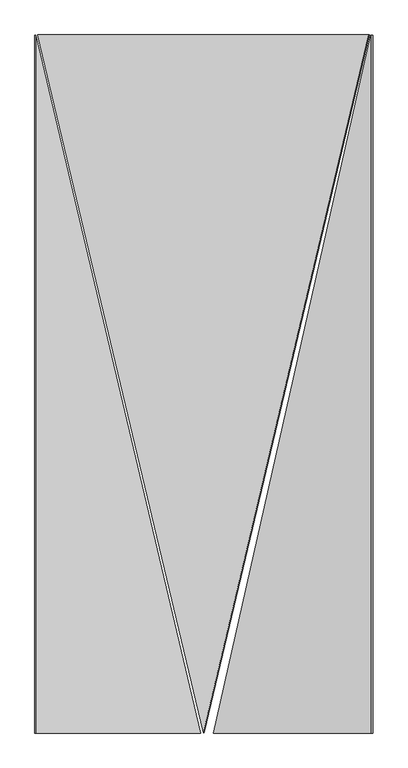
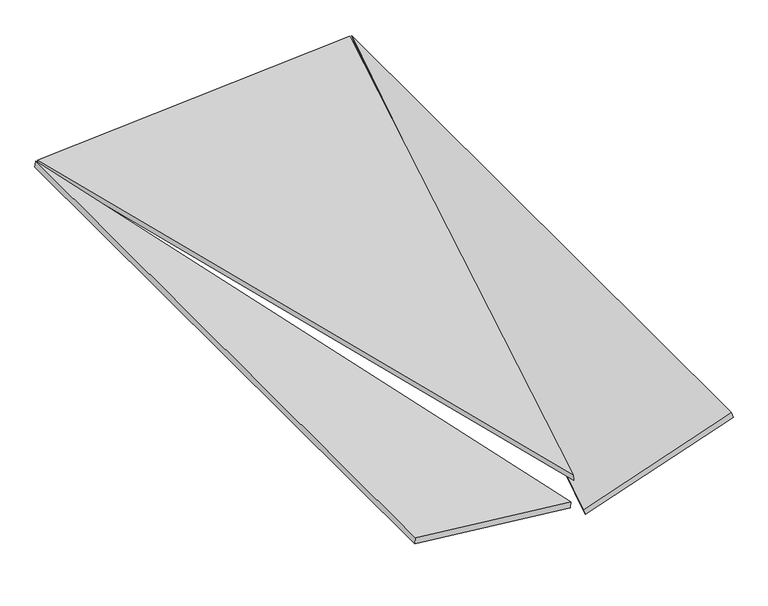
"""IFC4 building model written with IfcOpenShell, lengths in millimetres: proxy geometry, panel sufitowy 6 : panel sufitowy 6."""

from ifc_helpers import new_model, si_unit, frame, origin, place, context, project, spatial, polyline, outline, extrude, source, transform, mapped, element, save


def generic_models_becdabcb(model_context):
    return source(origin(), model_context, "Body", "SweptSolid", [
        extrude(outline(polyline([(-900.9098917, 0.0), (1235.4098448, 0.0), (1006.1909889, -962.7191946), (-900.9098917, 0.0)])), frame((551.6617499, -1457.4151922, 1223.1899064), z_axis=(-0.069756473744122, 0.0, 0.9975640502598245), x_axis=(-0.23105631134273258, 0.9728062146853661, -0.016157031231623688)), (0.0, 0.0, 1.0), 20.0),
        extrude(outline(polyline([(-127.4999999, 0.0), (-622.5, 0.0), (-127.4999999, 2079.0), (-127.4999999, 0.0)])), frame((1383.8672714, -2335.0, 1314.4633949), z_axis=(-0.32556815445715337, 0.0, 0.945518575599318), x_axis=(0.945518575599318, 0.0, 0.32556815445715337)), (0.0, 0.0, 1.0), 20.0),
        extrude(outline(polyline([(-127.5, 0.0), (-127.5, -2079.0), (-622.5, 0.0), (-127.5, 0.0)])), frame((128.9724206, -2335.0, 1215.8267958), z_axis=(0.10452846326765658, 0.0, 0.9945218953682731), x_axis=(-0.9945218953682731, 0.0, 0.10452846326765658)), (0.0, 0.0, 1.0), 20.0),
    ])


if __name__ == "__main__":
    model = new_model("IFC4")
    model_context = context("Model", 3, world=origin())
    ifc_project = project(units=[si_unit("LENGTHUNIT", "METRE", prefix="MILLI")], contexts=[model_context])
    site = spatial("IfcSite", under=ifc_project)
    building = spatial("IfcBuilding", under=site)
    placement = place(None, origin())
    generic_models_shape = generic_models_becdabcb(model_context)
    element("IfcBuildingElementProxy", 1, Name="panel sufitowy 6 : panel sufitowy 6", ObjectType="panel sufitowy 6 : panel sufitowy 6", at=placement, inside=building, context=model_context, shape_type="MappedRepresentation", body=[
        mapped(generic_models_shape, transform((0.0, 0.0, 0.0), x_axis=(1.0, 0.0, 0.0), y_axis=(0.0, 1.0, 0.0), z_axis=(0.0, 0.0, 1.0))),
    ])
    save(model, "model.ifc")
